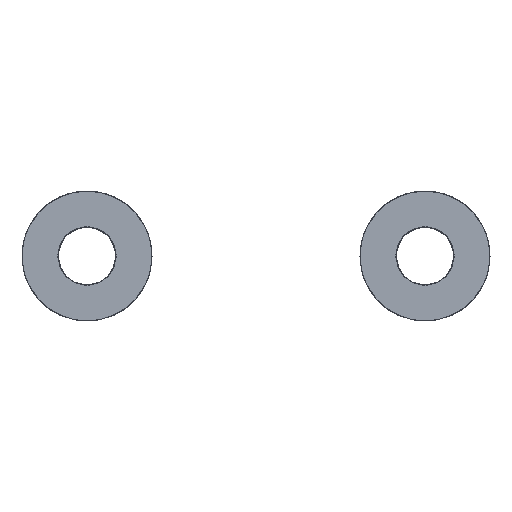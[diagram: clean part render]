
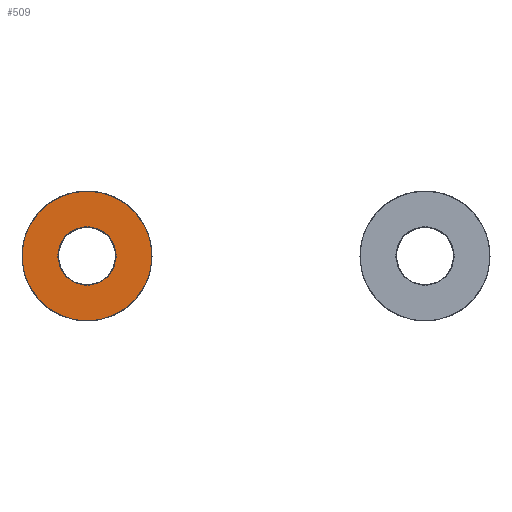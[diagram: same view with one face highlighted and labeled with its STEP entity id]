
A CAD part, left-side view. The second image highlights one B-rep face of the part: STEP entity #509.
In plain terms, the highlighted planar face has unit normal (-1, 0, 0).
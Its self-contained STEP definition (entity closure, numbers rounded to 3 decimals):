
#509=ADVANCED_FACE('',(#549,#538),#1298,.T.);
#538=FACE_BOUND('',#581,.T.);
#549=FACE_OUTER_BOUND('',#580,.T.);
#580=EDGE_LOOP('',(#623));
#581=EDGE_LOOP('',(#624));
#623=ORIENTED_EDGE('',*,*,#1023,.T.);
#624=ORIENTED_EDGE('',*,*,#1024,.T.);
#723=PCURVE('',#1298,#823);
#724=PCURVE('',#1298,#824);
#823=DEFINITIONAL_REPRESENTATION('',(#1124),#2667);
#824=DEFINITIONAL_REPRESENTATION('',(#1126),#2667);
#923=SURFACE_CURVE('',#1123,(#723),.PCURVE_S1.);
#924=SURFACE_CURVE('',#1125,(#724),.PCURVE_S1.);
#1023=EDGE_CURVE('',#1203,#1203,#923,.T.);
#1024=EDGE_CURVE('',#1204,#1204,#924,.T.);
#1123=(
BOUNDED_CURVE()
B_SPLINE_CURVE(2,(#1478,#1479,#1480,#1481,#1482,#1483,#1484,#1485,#1486),
 .UNSPECIFIED.,.T.,.F.)
B_SPLINE_CURVE_WITH_KNOTS((3,2,2,2,3),(3.142,4.712,
6.283,7.854,9.425),.UNSPECIFIED.)
CURVE()
GEOMETRIC_REPRESENTATION_ITEM()
RATIONAL_B_SPLINE_CURVE((1.,0.707,1.,0.707,1.,0.707,
1.,0.707,1.))
REPRESENTATION_ITEM('')
);
#1124=(
BOUNDED_CURVE()
B_SPLINE_CURVE(2,(#1487,#1488,#1489,#1490,#1491,#1492,#1493,#1494,#1495),
 .UNSPECIFIED.,.T.,.F.)
B_SPLINE_CURVE_WITH_KNOTS((3,2,2,2,3),(3.142,4.712,
6.283,7.854,9.425),.UNSPECIFIED.)
CURVE()
GEOMETRIC_REPRESENTATION_ITEM()
RATIONAL_B_SPLINE_CURVE((1.,0.707,1.,0.707,1.,0.707,
1.,0.707,1.))
REPRESENTATION_ITEM('')
);
#1125=(
BOUNDED_CURVE()
B_SPLINE_CURVE(2,(#1496,#1497,#1498,#1499,#1500,#1501,#1502,#1503,#1504),
 .UNSPECIFIED.,.T.,.F.)
B_SPLINE_CURVE_WITH_KNOTS((3,2,2,2,3),(0.,1.571,3.142,
4.712,6.283),.UNSPECIFIED.)
CURVE()
GEOMETRIC_REPRESENTATION_ITEM()
RATIONAL_B_SPLINE_CURVE((1.,0.707,1.,0.707,1.,0.707,
1.,0.707,1.))
REPRESENTATION_ITEM('')
);
#1126=(
BOUNDED_CURVE()
B_SPLINE_CURVE(2,(#1505,#1506,#1507,#1508,#1509,#1510,#1511,#1512,#1513),
 .UNSPECIFIED.,.T.,.F.)
B_SPLINE_CURVE_WITH_KNOTS((3,2,2,2,3),(0.,1.571,3.142,
4.712,6.283),.UNSPECIFIED.)
CURVE()
GEOMETRIC_REPRESENTATION_ITEM()
RATIONAL_B_SPLINE_CURVE((1.,0.707,1.,0.707,1.,0.707,
1.,0.707,1.))
REPRESENTATION_ITEM('')
);
#1203=VERTEX_POINT('',#1476);
#1204=VERTEX_POINT('',#1477);
#1298=PLANE('',#1352);
#1352=AXIS2_PLACEMENT_3D('',#1475,#1371,$);
#1371=DIRECTION('',(-1.,0.,0.));
#1475=CARTESIAN_POINT('',(-1.5,5.,-5.));
#1476=CARTESIAN_POINT('',(-1.5,-5.,0.));
#1477=CARTESIAN_POINT('',(-1.5,2.25,0.));
#1478=CARTESIAN_POINT('',(-1.5,-5.,0.));
#1479=CARTESIAN_POINT('',(-1.5,-5.,5.));
#1480=CARTESIAN_POINT('',(-1.5,0.,5.));
#1481=CARTESIAN_POINT('',(-1.5,5.,5.));
#1482=CARTESIAN_POINT('',(-1.5,5.,0.));
#1483=CARTESIAN_POINT('',(-1.5,5.,-5.));
#1484=CARTESIAN_POINT('',(-1.5,0.,-5.));
#1485=CARTESIAN_POINT('',(-1.5,-5.,-5.));
#1486=CARTESIAN_POINT('',(-1.5,-5.,0.));
#1487=CARTESIAN_POINT('',(1.,0.5));
#1488=CARTESIAN_POINT('',(1.,1.));
#1489=CARTESIAN_POINT('',(0.5,1.));
#1490=CARTESIAN_POINT('',(0.,1.));
#1491=CARTESIAN_POINT('',(0.,0.5));
#1492=CARTESIAN_POINT('',(0.,0.));
#1493=CARTESIAN_POINT('',(0.5,0.));
#1494=CARTESIAN_POINT('',(1.,0.));
#1495=CARTESIAN_POINT('',(1.,0.5));
#1496=CARTESIAN_POINT('',(-1.5,2.25,0.));
#1497=CARTESIAN_POINT('',(-1.5,2.25,2.25));
#1498=CARTESIAN_POINT('',(-1.5,0.,2.25));
#1499=CARTESIAN_POINT('',(-1.5,-2.25,2.25));
#1500=CARTESIAN_POINT('',(-1.5,-2.25,0.));
#1501=CARTESIAN_POINT('',(-1.5,-2.25,-2.25));
#1502=CARTESIAN_POINT('',(-1.5,0.,-2.25));
#1503=CARTESIAN_POINT('',(-1.5,2.25,-2.25));
#1504=CARTESIAN_POINT('',(-1.5,2.25,0.));
#1505=CARTESIAN_POINT('',(0.275,0.5));
#1506=CARTESIAN_POINT('',(0.275,0.725));
#1507=CARTESIAN_POINT('',(0.5,0.725));
#1508=CARTESIAN_POINT('',(0.725,0.725));
#1509=CARTESIAN_POINT('',(0.725,0.5));
#1510=CARTESIAN_POINT('',(0.725,0.275));
#1511=CARTESIAN_POINT('',(0.5,0.275));
#1512=CARTESIAN_POINT('',(0.275,0.275));
#1513=CARTESIAN_POINT('',(0.275,0.5));
#2667=(
GEOMETRIC_REPRESENTATION_CONTEXT(2)
PARAMETRIC_REPRESENTATION_CONTEXT()
REPRESENTATION_CONTEXT('pspace','')
);
